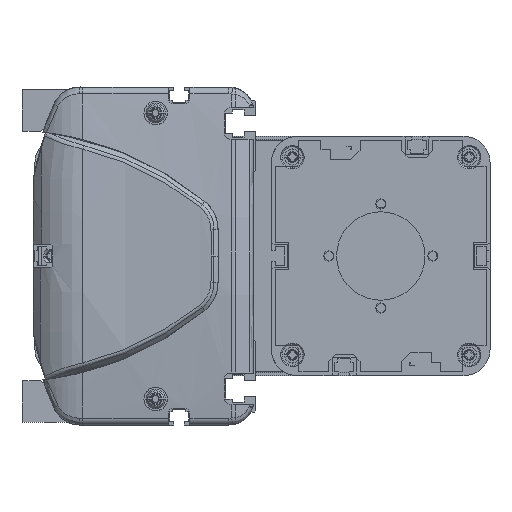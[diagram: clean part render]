
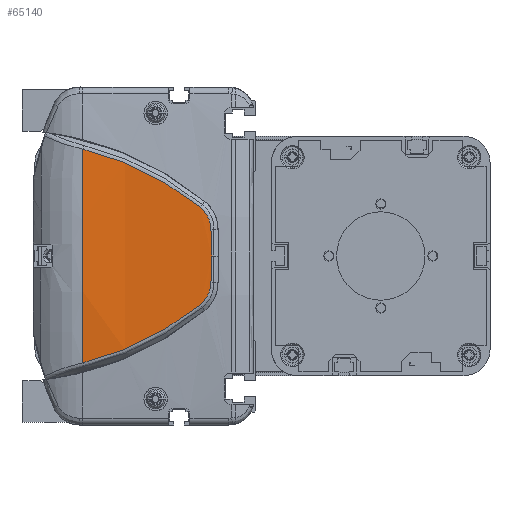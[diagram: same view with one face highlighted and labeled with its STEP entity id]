
A CAD part, left-side view. The second image highlights one B-rep face of the part: STEP entity #65140.
In plain terms, the highlighted cylindrical face has radius 500 mm (diameter 1000 mm), a partial arc.
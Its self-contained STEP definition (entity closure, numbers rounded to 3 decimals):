
#61403=CARTESIAN_POINT('',(-914.,66.962,0.));
#61404=DIRECTION('',(0.,-1.,0.));
#61405=DIRECTION('',(-0.997,0.,0.082));
#61406=AXIS2_PLACEMENT_3D('',#61403,#61404,#61405);
#62280=CARTESIAN_POINT('',(-1413.648,21.913,
-18.759));
#62281=CARTESIAN_POINT('',(-1413.449,28.504,
-24.058));
#62282=CARTESIAN_POINT('',(-1412.934,42.795,
-33.27));
#62283=CARTESIAN_POINT('',(-1412.471,58.756,
-39.127));
#62284=CARTESIAN_POINT('',(-1412.306,66.962,
-41.121));
#62286=CARTESIAN_POINT('',(-1412.306,66.962,
41.121));
#62287=CARTESIAN_POINT('',(-1412.471,58.756,
39.127));
#62288=CARTESIAN_POINT('',(-1412.934,42.795,
33.27));
#62289=CARTESIAN_POINT('',(-1413.449,28.504,
24.058));
#62290=CARTESIAN_POINT('',(-1413.648,21.913,
18.759));
#62292=CARTESIAN_POINT('',(-1413.648,21.913,
18.759));
#62293=CARTESIAN_POINT('',(-1413.686,20.635,
17.736));
#62294=CARTESIAN_POINT('',(-1413.779,18.536,
15.107));
#62295=CARTESIAN_POINT('',(-1413.863,17.752,
11.827));
#62296=CARTESIAN_POINT('',(-1413.896,17.724,
10.178));
#62298=CARTESIAN_POINT('',(-1413.896,17.724,
10.178));
#62299=CARTESIAN_POINT('',(-1413.92,17.707,
9.027));
#62300=CARTESIAN_POINT('',(-1413.959,17.667,
6.737));
#62301=CARTESIAN_POINT('',(-1413.993,17.58,
3.342));
#62302=CARTESIAN_POINT('',(-1414.,17.498,
1.109));
#62303=CARTESIAN_POINT('',(-1414.,17.449,
0.));
#62305=CARTESIAN_POINT('',(-1414.,17.449,
0.));
#62306=CARTESIAN_POINT('',(-1414.,17.498,
-1.109));
#62307=CARTESIAN_POINT('',(-1413.993,17.58,
-3.343));
#62308=CARTESIAN_POINT('',(-1413.959,17.667,
-6.736));
#62309=CARTESIAN_POINT('',(-1413.92,17.707,
-9.028));
#62310=CARTESIAN_POINT('',(-1413.896,17.724,
-10.18));
#62312=CARTESIAN_POINT('',(-1413.896,17.724,
-10.18));
#62313=CARTESIAN_POINT('',(-1413.863,17.752,
-11.828));
#62314=CARTESIAN_POINT('',(-1413.779,18.537,
-15.109));
#62315=CARTESIAN_POINT('',(-1413.686,20.635,
-17.736));
#62316=CARTESIAN_POINT('',(-1413.648,21.913,
-18.759));
#62964=VERTEX_POINT('',#62280);
#62965=VERTEX_POINT('',#62284);
#62966=CARTESIAN_POINT('',(-1412.306,66.962,
41.121));
#62967=VERTEX_POINT('',#62966);
#62968=VERTEX_POINT('',#62290);
#62969=VERTEX_POINT('',#62296);
#62970=VERTEX_POINT('',#62303);
#62971=VERTEX_POINT('',#62310);
#65121=CARTESIAN_POINT('',(-914.,8.606,0.));
#65122=DIRECTION('',(0.,1.,0.));
#65123=DIRECTION('',(1.,0.,0.));
#65124=AXIS2_PLACEMENT_3D('',#65121,#65122,#65123);
#65125=CYLINDRICAL_SURFACE('',#65124,500.);
#65127=ORIENTED_EDGE('',*,*,#65126,.T.);
#65128=ORIENTED_EDGE('',*,*,#63766,.F.);
#65130=ORIENTED_EDGE('',*,*,#65129,.T.);
#65132=ORIENTED_EDGE('',*,*,#65131,.T.);
#65134=ORIENTED_EDGE('',*,*,#65133,.T.);
#65136=ORIENTED_EDGE('',*,*,#65135,.T.);
#65137=ORIENTED_EDGE('',*,*,#65111,.T.);
#65138=EDGE_LOOP('',(#65127,#65128,#65130,#65132,#65134,#65136,#65137));
#65139=FACE_OUTER_BOUND('',#65138,.F.);
#65140=ADVANCED_FACE('',(#65139),#65125,.T.);
#61407=CIRCLE('',#61406,500.);
#62285=B_SPLINE_CURVE_WITH_KNOTS('',3,(#62280,#62281,#62282,#62283,#62284),
.UNSPECIFIED.,.F.,.F.,(4,1,4),(0.,0.5,1.),.UNSPECIFIED.);
#62291=B_SPLINE_CURVE_WITH_KNOTS('',3,(#62286,#62287,#62288,#62289,#62290),
.UNSPECIFIED.,.F.,.F.,(4,1,4),(0.,0.5,1.),.UNSPECIFIED.);
#62297=B_SPLINE_CURVE_WITH_KNOTS('',3,(#62292,#62293,#62294,#62295,#62296),
.UNSPECIFIED.,.F.,.F.,(4,1,4),(0.,0.5,1.),.UNSPECIFIED.);
#62304=B_SPLINE_CURVE_WITH_KNOTS('',3,(#62298,#62299,#62300,#62301,#62302,
#62303),.UNSPECIFIED.,.F.,.F.,(4,1,1,4),(0.,0.333,
0.667,1.),.UNSPECIFIED.);
#62311=B_SPLINE_CURVE_WITH_KNOTS('',3,(#62305,#62306,#62307,#62308,#62309,
#62310),.UNSPECIFIED.,.F.,.F.,(4,1,1,4),(0.,0.333,
0.667,1.),.UNSPECIFIED.);
#62317=B_SPLINE_CURVE_WITH_KNOTS('',3,(#62312,#62313,#62314,#62315,#62316),
.UNSPECIFIED.,.F.,.F.,(4,1,4),(0.,0.5,1.),.UNSPECIFIED.);
#63766=EDGE_CURVE('',#62967,#62965,#61407,.T.);
#65111=EDGE_CURVE('',#62971,#62964,#62317,.T.);
#65126=EDGE_CURVE('',#62964,#62965,#62285,.T.);
#65129=EDGE_CURVE('',#62967,#62968,#62291,.T.);
#65131=EDGE_CURVE('',#62968,#62969,#62297,.T.);
#65133=EDGE_CURVE('',#62969,#62970,#62304,.T.);
#65135=EDGE_CURVE('',#62970,#62971,#62311,.T.);
